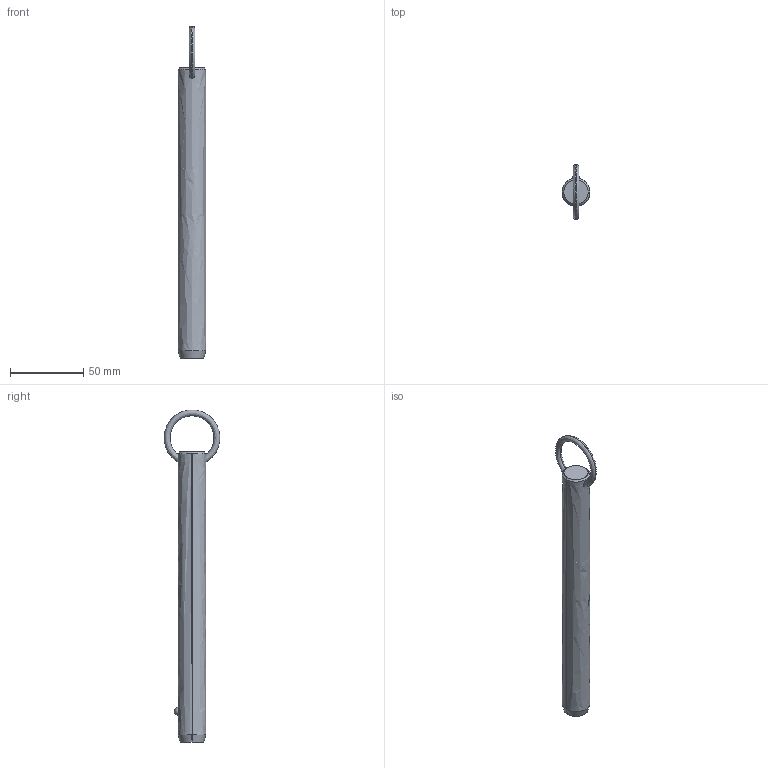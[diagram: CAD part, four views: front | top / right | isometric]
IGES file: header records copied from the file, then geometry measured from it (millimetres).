
Start section: SolidWorks IGES file using analytic representation for surfaces
Global section: file name: C:\Users\liam_\OneDrive\Documents\WORK\Work for WixRoyd\Job Files\J-00019 - Matt Davis CAD Checking\04. CAD Drawings\automotion20190605\P1250.2_v2\P1250.2_v2_20190729_IGES\P1250.075-650.igs; native system: SolidWorks 2017; preprocessor: SolidWorks 2017; author: liam_; date: 190730.000002; units: millimetre
Bounding box: 19 x 38.1 x 226.9 mm (x, y, z)
Surface area: 13369.4 mm2 (no closed solid volume)
Topology: 0 solids, 0 shells, 12 faces, 294 edges, 292 vertices
Faces by surface type: revolution 8, bspline 4
